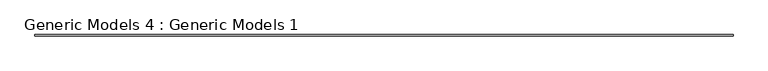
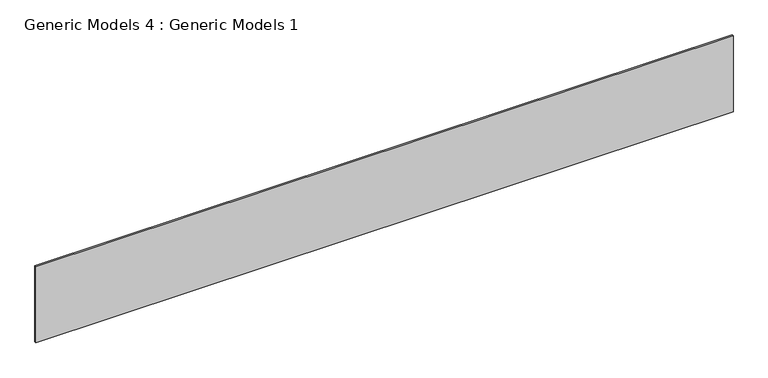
"""IFC4 building model written with IfcOpenShell, lengths in millimetres: proxy geometry, Generic Models 4 : Generic Models 1."""

from ifc_helpers import new_model, si_unit, frame, origin, place, context, project, spatial, polyline, outline, extrude, source, transform, mapped, element, save


def generic_models_4_generic_models_1_3a44d989(model_context):
    return source(origin(), model_context, "Body", "SweptSolid", [
        extrude(outline(polyline([(-9102.850493, -6264.1489595), (-12049.235253, -6264.1489595), (-12049.235253, -6257.7989595), (-9102.850493, -6257.7989595), (-9102.850493, -6264.1489595)])), frame((0.0, 0.0, 33528.0), z_axis=(0.0, 0.0, 1.0), x_axis=(1.0, 0.0, 0.0)), (0.0, 0.0, 1.0), 339.4180873),
    ])


if __name__ == "__main__":
    model = new_model("IFC4")
    model_context = context("Model", 3, world=origin())
    ifc_project = project(units=[si_unit("LENGTHUNIT", "METRE", prefix="MILLI")], contexts=[model_context])
    site = spatial("IfcSite", under=ifc_project)
    building = spatial("IfcBuilding", under=site)
    placement = place(None, origin())
    generic_models_4_generic_models_1_shape = generic_models_4_generic_models_1_3a44d989(model_context)
    element("IfcBuildingElementProxy", 1, Name="Generic Models 4 : Generic Models 1", ObjectType="Generic Models 4 : Generic Models 1", at=placement, inside=building, context=model_context, shape_type="MappedRepresentation", body=[
        mapped(generic_models_4_generic_models_1_shape, transform((0.0, 0.0, 0.0), x_axis=(1.0, 0.0, 0.0), y_axis=(0.0, 1.0, 0.0), z_axis=(0.0, 0.0, 1.0))),
    ])
    save(model, "model.ifc")
